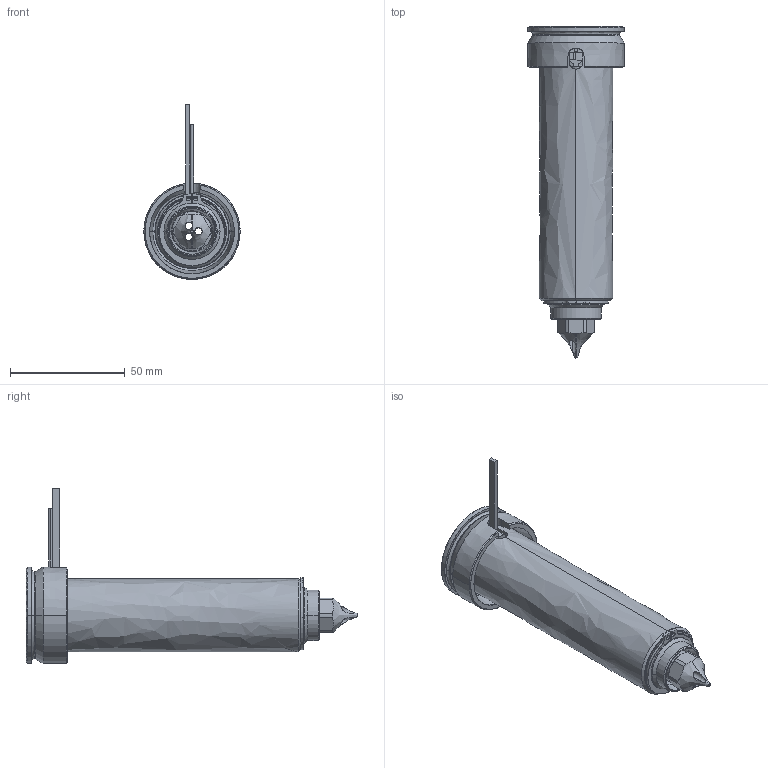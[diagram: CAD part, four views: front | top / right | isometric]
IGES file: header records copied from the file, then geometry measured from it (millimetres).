
Start section: SolidWorks IGES file using analytic representation for surfaces
Global section: file name: C:\Users\luca.EMPAD\Desktop\TEM\UGDL3614-S-A-1 [Øf=1.3 ØC=09].IGS; native system: SolidWorks 2012; preprocessor: SolidWorks 2012; author: luca; date: 120330.155728; units: millimetre
Bounding box: 42 x 144.8 x 76.3 mm (x, y, z)
Surface area: 46567 mm2 (no closed solid volume)
Topology: 0 solids, 0 shells, 124 faces, 2230 edges, 2230 vertices
Faces by surface type: revolution 79, bspline 45
